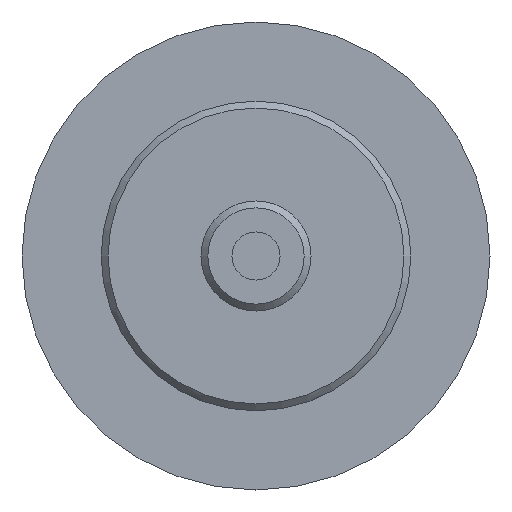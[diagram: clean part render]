
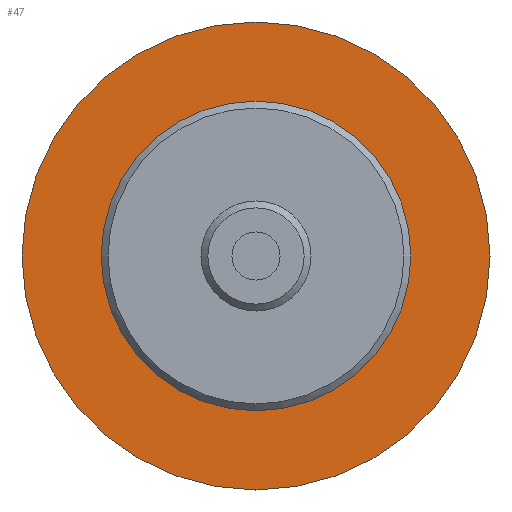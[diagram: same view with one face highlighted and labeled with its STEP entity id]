
A CAD part, front view. The second image highlights one B-rep face of the part: STEP entity #47.
In plain terms, the highlighted planar face has unit normal (0, -1, 0).
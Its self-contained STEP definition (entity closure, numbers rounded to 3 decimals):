
#2=CARTESIAN_POINT('',(-73.422,-24.36,-34.));
#3=DIRECTION('',(0.0,1.0,0.0));
#4=DIRECTION('',(0.0,0.0,1.0));
#5=AXIS2_PLACEMENT_3D('',#2,#3,#4);
#6=PLANE('',#5);
#7=CARTESIAN_POINT('',(-22.422,-24.36,0.0));
#8=VERTEX_POINT('',#7);
#9=CARTESIAN_POINT('',(-56.422,-24.36,0.0));
#10=VERTEX_POINT('',#9);
#11=CARTESIAN_POINT('',(-39.422,-24.36,0.0));
#12=DIRECTION('',(0.0,-1.0,0.0));
#13=DIRECTION('',(1.0,0.0,0.0));
#14=AXIS2_PLACEMENT_3D('',#11,#12,#13);
#15=CIRCLE('',#14,17.);
#16=EDGE_CURVE('',#8,#10,#15,.T.);
#17=ORIENTED_EDGE('',*,*,#16,.T.);
#18=CARTESIAN_POINT('',(-39.422,-24.36,0.0));
#19=DIRECTION('',(0.0,-1.0,0.0));
#20=DIRECTION('',(1.0,0.0,0.0));
#21=AXIS2_PLACEMENT_3D('',#18,#19,#20);
#22=CIRCLE('',#21,17.);
#23=EDGE_CURVE('',#10,#8,#22,.T.);
#24=ORIENTED_EDGE('',*,*,#23,.T.);
#25=EDGE_LOOP('',(#17,#24));
#26=FACE_OUTER_BOUND('',#25,.T.);
#27=CARTESIAN_POINT('',(-39.422,-24.36,2.0));
#28=VERTEX_POINT('',#27);
#29=CARTESIAN_POINT('',(-39.422,-24.36,-2.0));
#30=VERTEX_POINT('',#29);
#31=CARTESIAN_POINT('',(-39.422,-24.36,0.0));
#32=DIRECTION('',(0.0,1.0,0.0));
#33=DIRECTION('',(0.0,0.0,1.0));
#34=AXIS2_PLACEMENT_3D('',#31,#32,#33);
#35=CIRCLE('',#34,2.0);
#36=EDGE_CURVE('',#28,#30,#35,.T.);
#37=ORIENTED_EDGE('',*,*,#36,.T.);
#38=CARTESIAN_POINT('',(-39.422,-24.36,0.0));
#39=DIRECTION('',(0.0,1.0,0.0));
#40=DIRECTION('',(0.0,0.0,1.0));
#41=AXIS2_PLACEMENT_3D('',#38,#39,#40);
#42=CIRCLE('',#41,2.0);
#43=EDGE_CURVE('',#30,#28,#42,.T.);
#44=ORIENTED_EDGE('',*,*,#43,.T.);
#45=EDGE_LOOP('',(#37,#44));
#46=FACE_BOUND('',#45,.T.);
#47=ADVANCED_FACE('',(#26,#46),#6,.F.);
